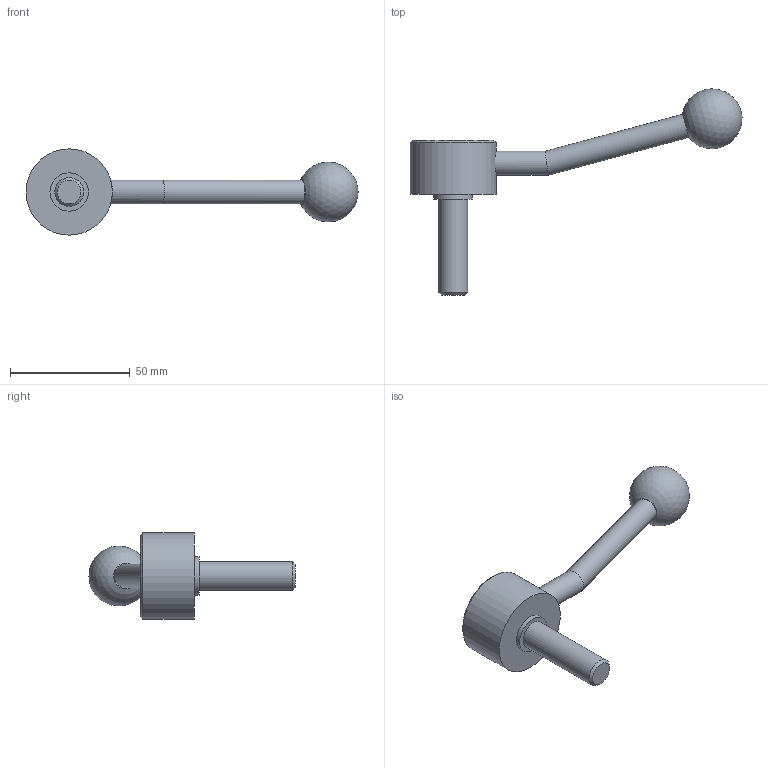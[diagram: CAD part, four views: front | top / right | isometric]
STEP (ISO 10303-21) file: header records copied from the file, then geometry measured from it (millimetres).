
FILE_DESCRIPTION( ( 'STEP AP203' ), '1' );
FILE_NAME( 'C:/Temp/Ganter_Step_05_03_2020/data/2_1/gn_125/gn_125_ms/gn_125_ms_e/Flat Adjustable Lever GN 125-36-M12-40-E.stp', '2020-03-05T11:00:59', ( 'License CC BY-ND 4.0' ), ( 'CADENAS' ), ' ', 'PARTsolutions', ' ' );
FILE_SCHEMA( ( 'CONFIG_CONTROL_DESIGN' ) );
Length unit declared in the file: millimetre
Products named in the file (1): _Flat Adjustable Lever GN 125-36-M12-40-E
Bounding box: 138.41 x 85.96 x 36 mm (x, y, z)
Volume: 42125.3 mm3; surface area: 10474.9 mm2
Topology: 1 solids, 1 shells, 15 faces, 25 edges, 16 vertices
Faces by surface type: cylinder 6, plane 6, cone 2, sphere 1
Full cylindrical faces by diameter (mm): 10 x2, 12 x1, 16 x1, 26 x1, 36 x1
Entity records: 412 total; most frequent: CARTESIAN_POINT 118, DIRECTION 58, AXIS2_PLACEMENT_3D 29, EDGE_LOOP 28, ORIENTED_EDGE 28, FACE_OUTER_BOUND 21, ADVANCED_FACE 15, VERTEX_POINT 15
